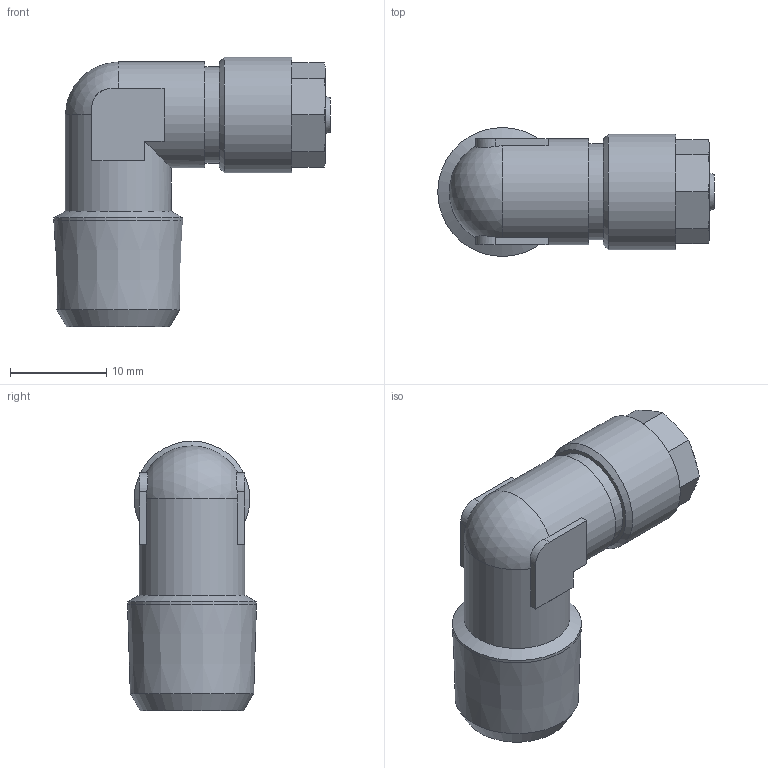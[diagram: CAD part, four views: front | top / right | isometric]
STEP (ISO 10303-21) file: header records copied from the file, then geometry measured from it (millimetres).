
FILE_DESCRIPTION(/* description */ (''),/* implementation_level */ '2;1');
FILE_NAME(/* name */ '11004_305_64_R14_18.07.17',/* time_stamp */ '2017-07-18T08:10:13+02:00',/* author */ (''),/* organization */ (''),/* preprocessor_version */ 'ST-DEVELOPER v16.5',/* originating_system */ 'HiCAD 2016 2102.2 Build 618',/* authorisation */ '');
FILE_SCHEMA (('AUTOMOTIVE_DESIGN { 1 0 10303 214 1 1 1 1 }'));
Length unit declared in the file: millimetre
Products named in the file (3): Root; 17005; R11004
Assembly tree (2 placements, depth 2):
  Root
    17005
    R11004
Bounding box: 28.69 x 13.39 x 28 mm (x, y, z)
Volume: 3704.1 mm3; surface area: 3076.8 mm2
Topology: 2 solids, 2 shells, 69 faces, 167 edges, 105 vertices
Faces by surface type: plane 34, cone 20, cylinder 13, torus 1, sphere 1
Full cylindrical faces by diameter (mm): 3 x1, 4.5 x1, 5 x1, 6 x1, 8 x1, 8.773 x1, 10 x1, 11 x2, 12 x1, 13.388 x1
Entity records: 3750 total; most frequent: CARTESIAN_POINT 925, DIRECTION 340, PRESENTATION_STYLE_ASSIGNMENT 260, COLOUR_RGB 259, DRAUGHTING_PRE_DEFINED_CURVE_FONT 258, CURVE_STYLE 258, OVER_RIDING_STYLED_ITEM 258, ORIENTED_EDGE 258
